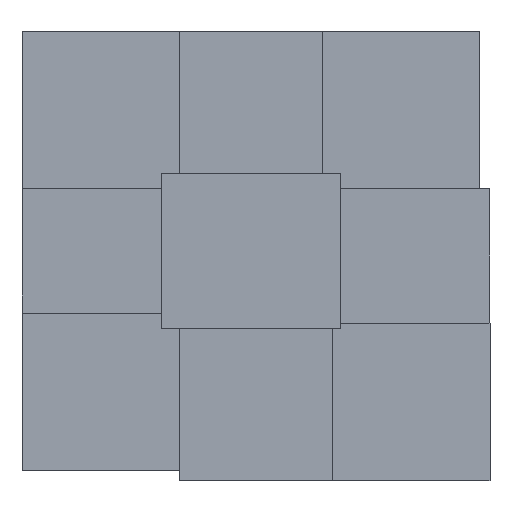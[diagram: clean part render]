
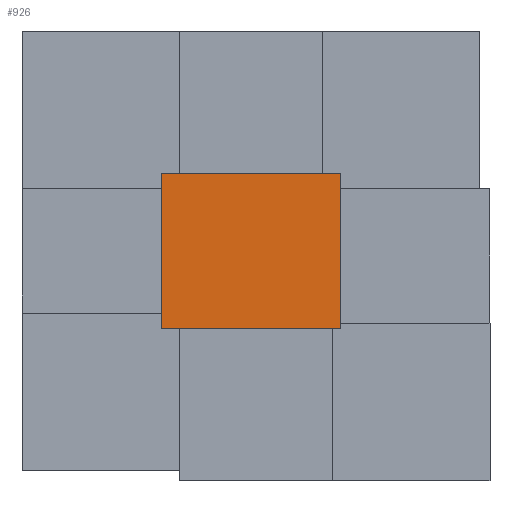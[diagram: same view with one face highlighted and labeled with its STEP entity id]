
A CAD part, left-side view. The second image highlights one B-rep face of the part: STEP entity #926.
In plain terms, the highlighted planar face has unit normal (-1, 0, 0).
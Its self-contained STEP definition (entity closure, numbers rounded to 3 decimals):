
#808=CARTESIAN_POINT('Line Origine',(0.,0.,49.5)) ;
#812=CARTESIAN_POINT('Vertex',(0.,0.,0.)) ;
#814=CARTESIAN_POINT('Vertex',(0.,0.,99.)) ;
#883=CARTESIAN_POINT('Vertex',(0.,114.,0.)) ;
#886=CARTESIAN_POINT('Line Origine',(0.,114.,49.5)) ;
#890=CARTESIAN_POINT('Vertex',(0.,114.,99.)) ;
#905=CARTESIAN_POINT('Axis2P3D Location',(0.,114.,0.)) ;
#910=CARTESIAN_POINT('Line Origine',(0.,57.,0.)) ;
#915=CARTESIAN_POINT('Line Origine',(0.,57.,99.)) ;
#809=DIRECTION('Vector Direction',(0.,0.,1.)) ;
#887=DIRECTION('Vector Direction',(0.,0.,1.)) ;
#906=DIRECTION('Axis2P3D Direction',(-1.,0.,0.)) ;
#907=DIRECTION('Axis2P3D XDirection',(0.,-1.,0.)) ;
#911=DIRECTION('Vector Direction',(0.,-1.,0.)) ;
#916=DIRECTION('Vector Direction',(0.,-1.,0.)) ;
#908=AXIS2_PLACEMENT_3D('Plane Axis2P3D',#905,#906,#907) ;
#921=ORIENTED_EDGE('',*,*,#892,.F.) ;
#922=ORIENTED_EDGE('',*,*,#914,.T.) ;
#923=ORIENTED_EDGE('',*,*,#816,.T.) ;
#924=ORIENTED_EDGE('',*,*,#919,.F.) ;
#810=VECTOR('Line Direction',#809,1.) ;
#888=VECTOR('Line Direction',#887,1.) ;
#912=VECTOR('Line Direction',#911,1.) ;
#917=VECTOR('Line Direction',#916,1.) ;
#926=ADVANCED_FACE('Body.2-molde-superior',(#925),#909,.T.) ;
#816=EDGE_CURVE('',#813,#815,#811,.T.) ;
#892=EDGE_CURVE('',#884,#891,#889,.T.) ;
#914=EDGE_CURVE('',#884,#813,#913,.T.) ;
#919=EDGE_CURVE('',#891,#815,#918,.T.) ;
#920=EDGE_LOOP('',(#921,#922,#923,#924)) ;
#925=FACE_OUTER_BOUND('',#920,.T.) ;
#811=LINE('Line',#808,#810) ;
#889=LINE('Line',#886,#888) ;
#913=LINE('Line',#910,#912) ;
#918=LINE('Line',#915,#917) ;
#909=PLANE('',#908) ;
#813=VERTEX_POINT('',#812) ;
#815=VERTEX_POINT('',#814) ;
#884=VERTEX_POINT('',#883) ;
#891=VERTEX_POINT('',#890) ;
